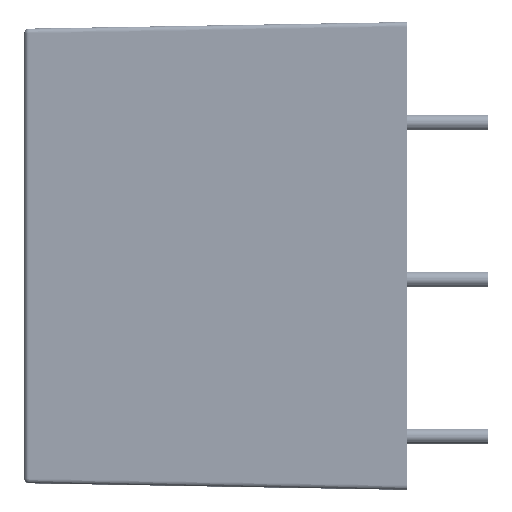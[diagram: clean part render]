
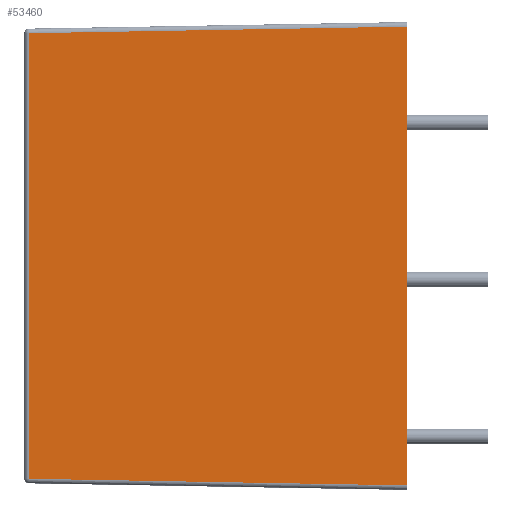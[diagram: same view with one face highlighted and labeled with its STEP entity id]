
A CAD part, left-side view. The second image highlights one B-rep face of the part: STEP entity #53460.
In plain terms, the highlighted planar face has unit normal (-1, 0.018, 0).
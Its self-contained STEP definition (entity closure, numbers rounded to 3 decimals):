
#848 = ORIENTED_EDGE ( 'NONE', *, *, #6887, .T. ) ;
#6590 = ORIENTED_EDGE ( 'NONE', *, *, #90273, .T. ) ;
#6887 = EDGE_CURVE ( 'NONE', #75350, #89601, #21462, .T. ) ;
#14050 = VECTOR ( 'NONE', #106794, 1000. ) ;
#15779 = EDGE_CURVE ( 'NONE', #92474, #75350, #81187, .T. ) ;
#20641 = ORIENTED_EDGE ( 'NONE', *, *, #110103, .T. ) ;
#21462 = LINE ( 'NONE', #117847, #43114 ) ;
#37190 = DIRECTION ( 'NONE',  ( -1., 0.017, 0. ) ) ;
#43114 = VECTOR ( 'NONE', #80182, 1000. ) ;
#47171 = CARTESIAN_POINT ( 'NONE',  ( -26.55, 0., 15.15 ) ) ;
#52547 = EDGE_LOOP ( 'NONE', ( #20641, #109534, #848, #6590 ) ) ;
#53460 = ADVANCED_FACE ( 'NONE', ( #59853 ), #106738, .T. ) ;
#54836 = CARTESIAN_POINT ( 'NONE',  ( -26.122, 24.505, -14.422 ) ) ;
#59853 = FACE_OUTER_BOUND ( 'NONE', #52547, .T. ) ;
#64949 = DIRECTION ( 'NONE',  ( 0.017, 1., -0.017 ) ) ;
#72252 = DIRECTION ( 'NONE',  ( -0.017, -1., -0.017 ) ) ;
#74105 = VECTOR ( 'NONE', #72252, 1000. ) ;
#75350 = VERTEX_POINT ( 'NONE', #115192 ) ;
#76207 = CARTESIAN_POINT ( 'NONE',  ( -26.55, -0.005, 14.85 ) ) ;
#77207 = LINE ( 'NONE', #87836, #74105 ) ;
#80182 = DIRECTION ( 'NONE',  ( 0., 0., -1. ) ) ;
#81187 = LINE ( 'NONE', #76207, #102832 ) ;
#86703 = LINE ( 'NONE', #96917, #14050 ) ;
#87836 = CARTESIAN_POINT ( 'NONE',  ( -26.541, 0.523, -14.841 ) ) ;
#89601 = VERTEX_POINT ( 'NONE', #54836 ) ;
#90273 = EDGE_CURVE ( 'NONE', #89601, #110796, #77207, .T. ) ;
#92474 = VERTEX_POINT ( 'NONE', #93283 ) ;
#92580 = AXIS2_PLACEMENT_3D ( 'NONE', #47171, #37190, #116250 ) ;
#93283 = CARTESIAN_POINT ( 'NONE',  ( -26.55, 0., 14.85 ) ) ;
#96917 = CARTESIAN_POINT ( 'NONE',  ( -26.55, 0., 15.15 ) ) ;
#102832 = VECTOR ( 'NONE', #64949, 1000. ) ;
#106738 = PLANE ( 'NONE',  #92580 ) ;
#106794 = DIRECTION ( 'NONE',  ( 0., 0., 1. ) ) ;
#109534 = ORIENTED_EDGE ( 'NONE', *, *, #15779, .T. ) ;
#110103 = EDGE_CURVE ( 'NONE', #110796, #92474, #86703, .T. ) ;
#110796 = VERTEX_POINT ( 'NONE', #118360 ) ;
#115192 = CARTESIAN_POINT ( 'NONE',  ( -26.122, 24.505, 14.422 ) ) ;
#116250 = DIRECTION ( 'NONE',  ( -0.017, -1., 0. ) ) ;
#117847 = CARTESIAN_POINT ( 'NONE',  ( -26.122, 24.505, 15.15 ) ) ;
#118360 = CARTESIAN_POINT ( 'NONE',  ( -26.55, 0., -14.85 ) ) ;
